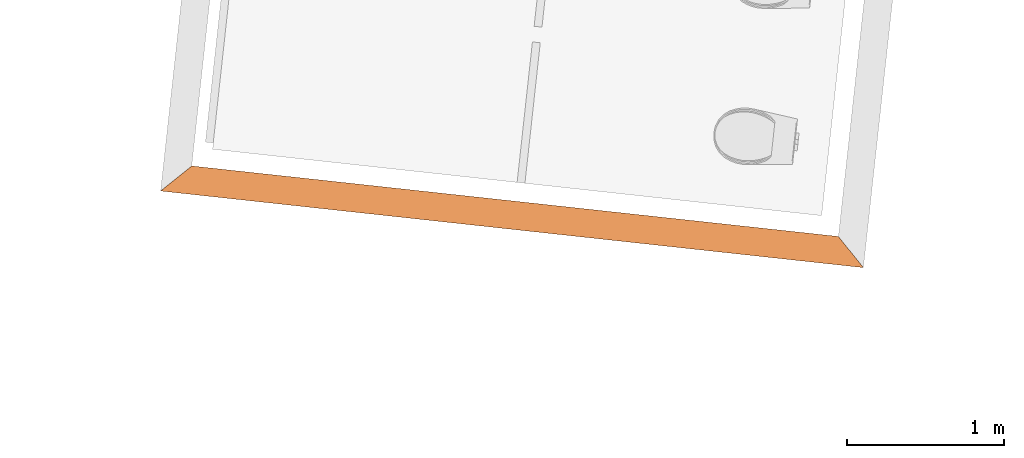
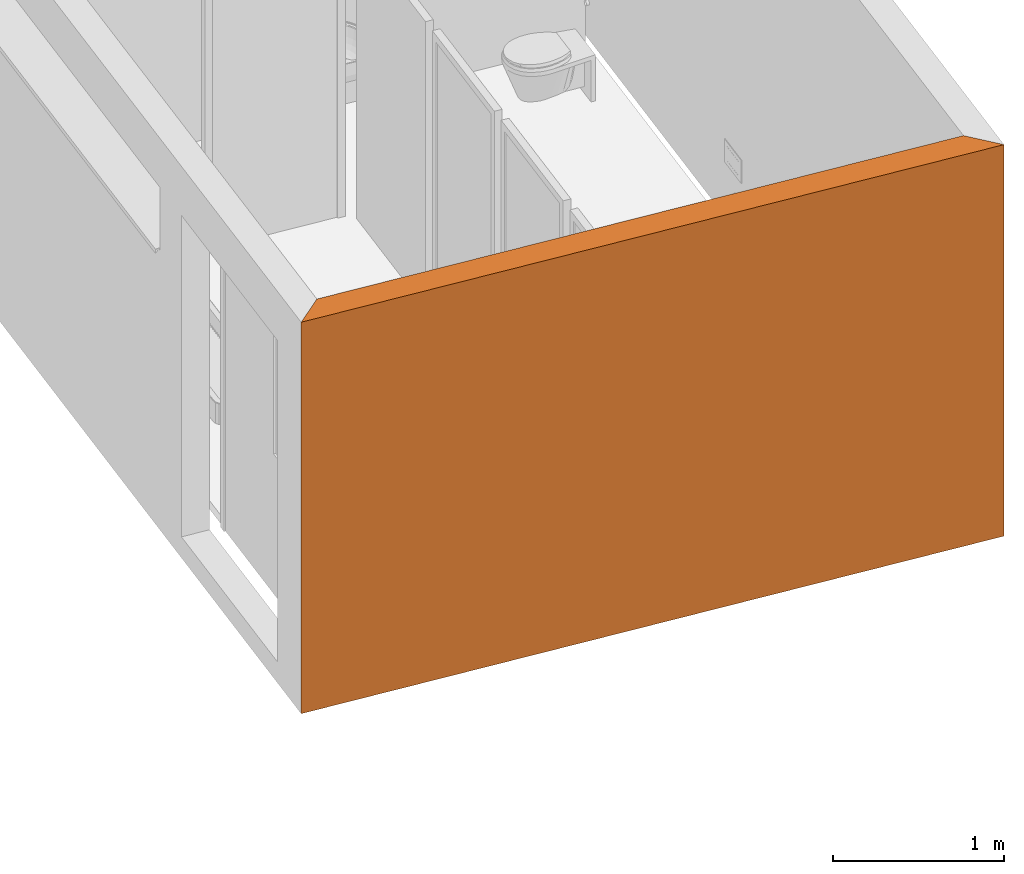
# One storey, part 34 of 79: 1 proxy.
"""IFC2X3 building model written with IfcOpenShell, lengths in metres."""

from ifc_helpers import new_model, entity, si_unit, converted_unit, derived_unit, money_unit, direction, frame, origin_with_axes, place, context, subcontext, project, spatial, polyline, outline, extrude, material, type_object, element, save


model = new_model("IFC2X3")

# Units and contexts
model_context = context("Model", 3, precision=1e-05, world=origin_with_axes(), true_north=direction((0.0, 1.0)))
body_context = subcontext(model_context, "Body", "Model", "MODEL_VIEW")
ifc_project = project(units=[si_unit("LENGTHUNIT", "METRE"), si_unit("AREAUNIT", "SQUARE_METRE"), si_unit("VOLUMEUNIT", "CUBIC_METRE"), converted_unit("PLANEANGLEUNIT", "DEGREE", entity("IfcPlaneAngleMeasure", 0.0174532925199), si_unit("PLANEANGLEUNIT", "RADIAN"), dimensions=[0, 0, 0, 0, 0, 0, 0]), money_unit("CHF"), converted_unit("TIMEUNIT", "Year", entity("IfcTimeMeasure", 31556926.0), si_unit("TIMEUNIT", "SECOND"), dimensions=[0, 0, 1, 0, 0, 0, 0]), si_unit("MASSUNIT", "GRAM", prefix="KILO"), si_unit("THERMODYNAMICTEMPERATUREUNIT", "DEGREE_CELSIUS"), si_unit("LUMINOUSINTENSITYUNIT", "LUMEN"), si_unit("ENERGYUNIT", "JOULE", prefix="MEGA"), derived_unit("THERMALCONDUCTANCEUNIT", [(si_unit("POWERUNIT", "WATT"), 1), (si_unit("LENGTHUNIT", "METRE"), -1), (si_unit("THERMODYNAMICTEMPERATUREUNIT", "KELVIN"), -1)]), derived_unit("SPECIFICHEATCAPACITYUNIT", [(si_unit("ENERGYUNIT", "JOULE"), 1), (si_unit("MASSUNIT", "GRAM", prefix="KILO"), -1), (si_unit("THERMODYNAMICTEMPERATUREUNIT", "KELVIN"), -1)]), derived_unit("MASSDENSITYUNIT", [(si_unit("MASSUNIT", "GRAM", prefix="KILO"), 1), (si_unit("VOLUMEUNIT", "CUBIC_METRE"), -1)])], contexts=[model_context])

# Site, building, storey
site_placement = place(None, frame((0.0, 0.0, 0.0), z_axis=(0.0, 0.0, 1.0), x_axis=(-0.177771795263, -0.984071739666, 0.0)))
site = spatial("IfcSite", under=ifc_project, at=site_placement, Name="Site", CompositionType="ELEMENT")
building_placement = place(site_placement, origin_with_axes())
building = spatial("IfcBuilding", under=site, at=building_placement, Name="Bâtiment", CompositionType="ELEMENT")
storey_placement = place(building_placement, origin_with_axes())
storey = spatial("IfcBuildingStorey", under=building, at=storey_placement, Name="RDC", CompositionType="ELEMENT", Elevation=0.0)

# Proxy
ifc_material = material(Name="_BA banché")
building_element_proxy_type = type_object("IfcBuildingElementProxyType", Name="_M ext 18 +12 300", PredefinedType="NOTDEFINED")
proxy_placement = place(storey_placement, frame((141.79842077, -119.65594416, -0.1), z_axis=(0.0, 0.0, 1.0), x_axis=(0.0700487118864, -0.997543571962, 0.0)))
element("IfcBuildingElementProxy", 1, at=proxy_placement, inside=storey, type_object=building_element_proxy_type, material=ifc_material, Name="M-Ext_BlocSanit", context=body_context, shape_type="SweptSolid", body=[
    extrude(outline(polyline([(0.179999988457, -0.18), (4.31999935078, -0.18), (4.49999935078, 0.0), (0.0, 0.0), (0.179999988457, -0.18)])), origin_with_axes(), (0.0, 0.0, 1.0), 2.8),
])

save(model, "model.ifc")
